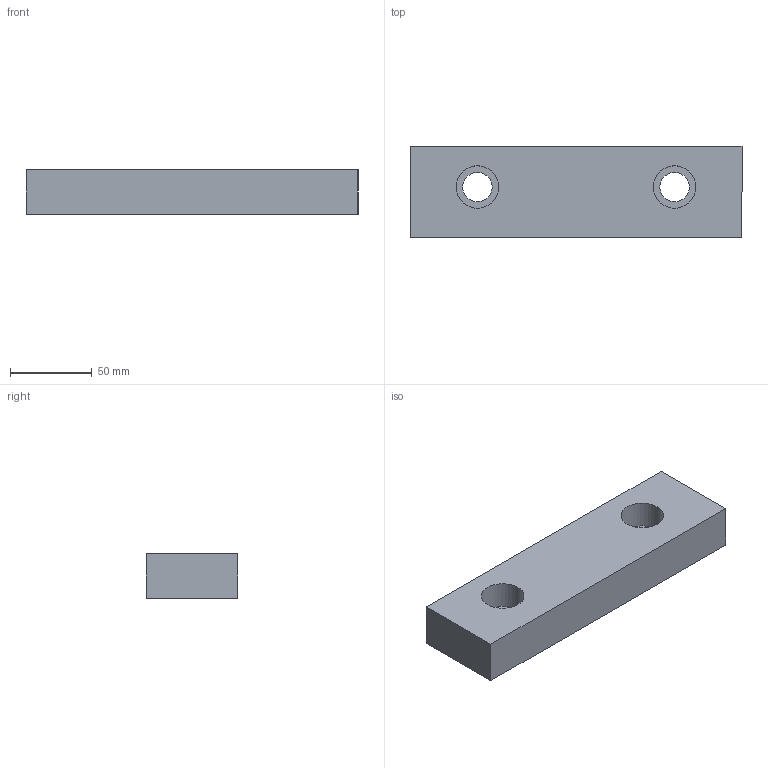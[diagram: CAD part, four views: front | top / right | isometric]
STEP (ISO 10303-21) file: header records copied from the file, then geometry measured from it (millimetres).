
FILE_DESCRIPTION (( 'STEP AP214' ), '1' );
FILE_NAME ('HKMVJ-81HS [05-0240 ref].step', '2023-05-02T20:42:21', ( '' ), ( '' ), 'SwSTEP 2.0', 'SolidWorks 2022', '' );
FILE_SCHEMA (( 'AUTOMOTIVE_DESIGN' ));
Length unit declared in the file: millimetre
Products named in the file (1): HKMVJ-81HS [05-0240 ref]
Bounding box: 203.2 x 55.88 x 27.3 mm (x, y, z)
Volume: 286747.1 mm3; surface area: 39782.8 mm2
Topology: 1 solids, 1 shells, 16 faces, 36 edges, 24 vertices
Faces by surface type: cylinder 8, plane 8
Entity records: 608 total; most frequent: DIRECTION 86, CARTESIAN_POINT 77, ORIENTED_EDGE 72, EDGE_CURVE 36, AXIS2_PLACEMENT_3D 33, VERTEX_POINT 24, EDGE_LOOP 22, VECTOR 20
